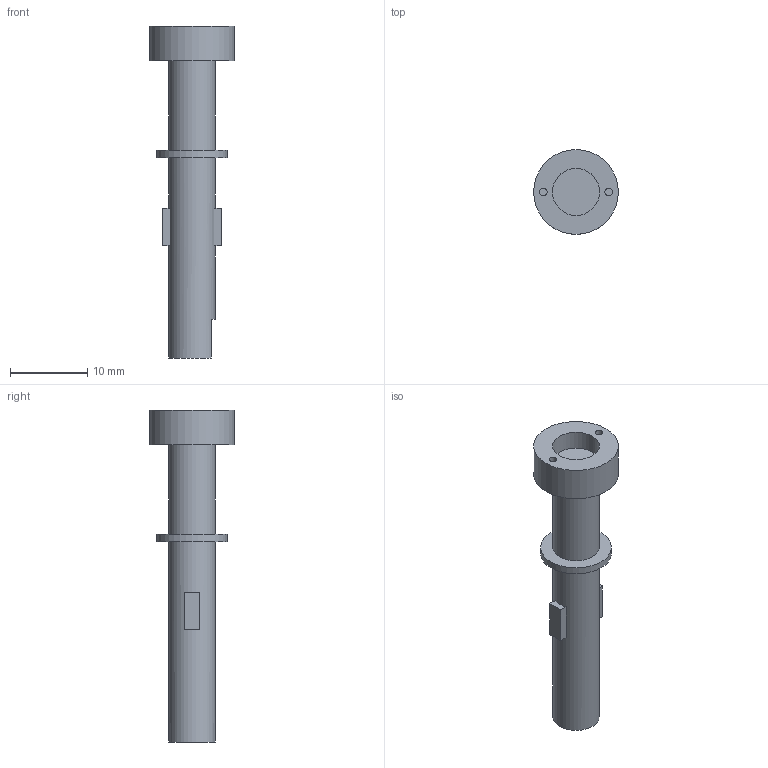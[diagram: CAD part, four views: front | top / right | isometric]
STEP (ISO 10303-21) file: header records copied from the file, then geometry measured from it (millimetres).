
FILE_DESCRIPTION(('Open CASCADE Model'),'2;1');
FILE_NAME('Open CASCADE Shape Model','2026-09-24T02:53:19',('Author'),( 'Open CASCADE'),'Open CASCADE STEP processor 7.8','Open CASCADE 7.8' ,'Unknown');
FILE_SCHEMA(('AUTOMOTIVE_DESIGN { 1 0 10303 214 1 1 1 1 }'));
Length unit declared in the file: millimetre
Products named in the file (1): Open CASCADE STEP translator 7.8 16
Bounding box: 11 x 11 x 43.1 mm (x, y, z)
Volume: 1490.5 mm3; surface area: 1244.4 mm2
Topology: 1 solids, 1 shells, 27 faces, 54 edges, 36 vertices
Faces by surface type: plane 20, cylinder 7
Full cylindrical faces by diameter (mm): 1 x2, 6 x2, 6.1 x1, 9.2 x1, 11 x1
Entity records: 1410 total; most frequent: CARTESIAN_POINT 238, DIRECTION 228, ORIENTED_EDGE 108, PCURVE 108, DEFINITIONAL_REPRESENTATION 108, LINE 106, VECTOR 106, EDGE_CURVE 54
